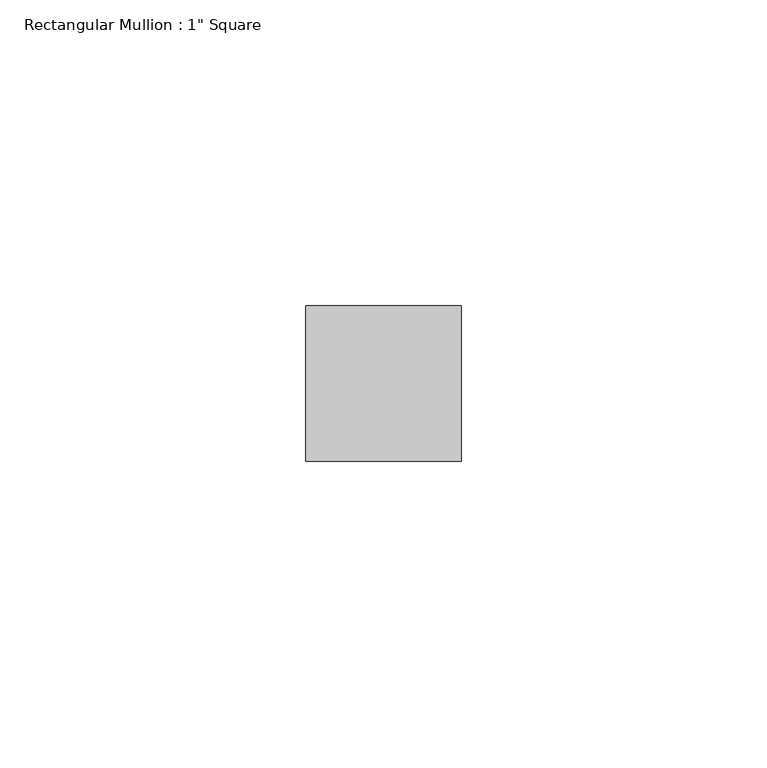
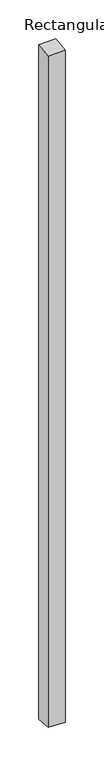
"""IFC4 building model written with IfcOpenShell, lengths in millimetres: member geometry."""

from ifc_helpers import new_model, si_unit, origin, place, context, project, spatial, faceted_brep, source, transform, mapped, element, save


def member_0c982175(model_context):
    return source(origin(), model_context, "Body", "Brep", [
        faceted_brep([(-25.4, 12.7, 0.5972463), (0.0, 12.7, 1.4322444), (0.0, 12.7, -1068.2322444), (-25.4, 12.7, -1067.3972463), (-25.4, -12.7, -2.2672424), (-25.4, -12.7, -1064.5327576), (0.0, -12.7, -1.4322444), (0.0, -12.7, -1065.3677556)], [[[0, 1, 2, 3]], [[4, 0, 3, 5]], [[6, 4, 5, 7]], [[1, 6, 7, 2]], [[1, 0, 4, 6]], [[2, 7, 5, 3]]]),
    ])


if __name__ == "__main__":
    model = new_model("IFC4")
    model_context = context("Model", 3, world=origin())
    ifc_project = project(units=[si_unit("LENGTHUNIT", "METRE", prefix="MILLI")], contexts=[model_context])
    site = spatial("IfcSite", under=ifc_project)
    building = spatial("IfcBuilding", under=site)
    placement = place(None, origin())
    member_shape = member_0c982175(model_context)
    element("IfcMember", 1, ObjectType="Rectangular Mullion : 1\" Square", at=placement, inside=building, context=model_context, shape_type="MappedRepresentation", body=[
        mapped(member_shape, transform((0.0, 0.0, 0.0), x_axis=(1.0, 0.0, 0.0), y_axis=(0.0, 1.0, 0.0), z_axis=(0.0, 0.0, 1.0))),
    ])
    save(model, "model.ifc")
